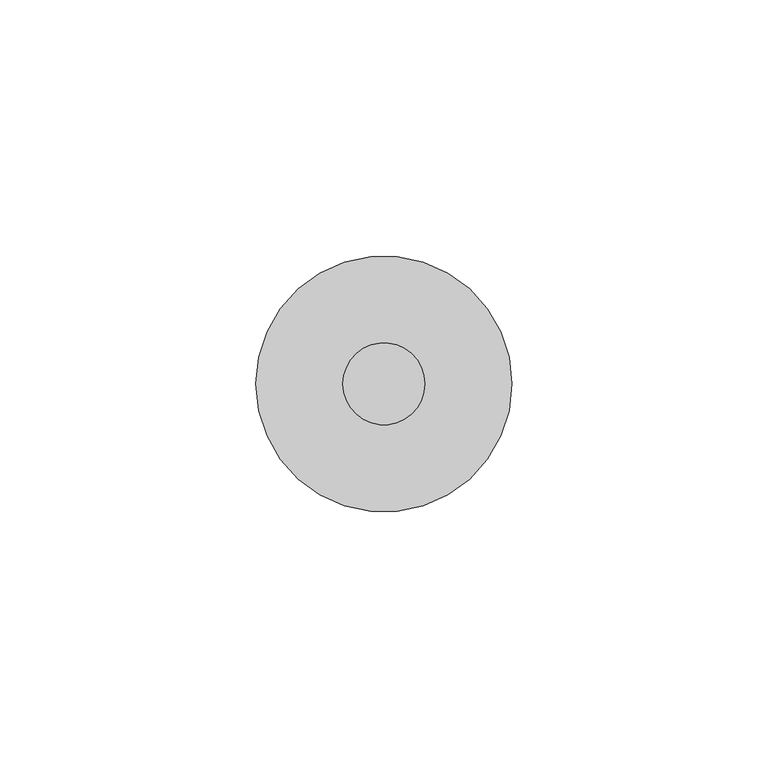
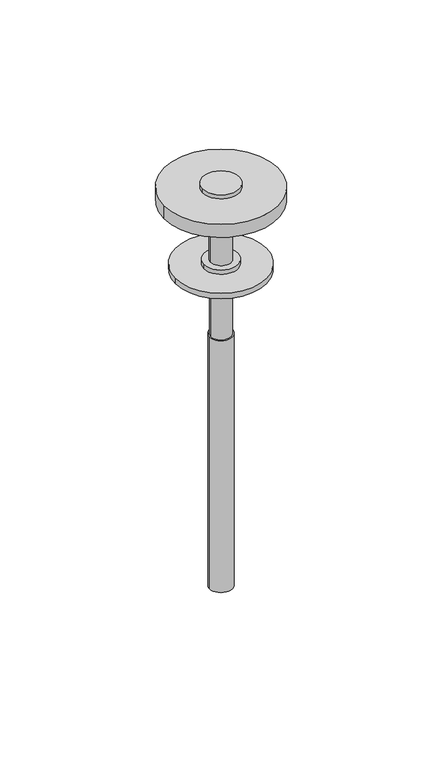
"""IFC4 building model written with IfcOpenShell, lengths in millimetres: proxy geometry, ITA-CONNETTORE 38 VOLTECO in orizzontale sigillato con AKTI-VO 201 : ITA-CONNETTORE 38 VOLTECO in orizzontale sigillato con AKTI-VO 201."""

from ifc_helpers import new_model, si_unit, point, frame, origin, origin_with_axes, origin_2d, place, context, project, spatial, circle_curve, trimmed, segment, composite_curve, outline, extrude, source, transform, mapped, element, save


def generic_models_02427750(model_context):
    return source(origin(), model_context, "Body", "SweptSolid", [
        extrude(outline(composite_curve([segment(trimmed(circle_curve(origin_2d(), 8.0), [point((-8.0, 0.0))], [point((8.0, 0.0))], False, "CARTESIAN"), True, "CONTINUOUS"), segment(trimmed(circle_curve(origin_2d(), 8.0), [point((8.0, 0.0))], [point((-8.0, 0.0))], False, "CARTESIAN"), True, "CONTINUOUS")], self_intersect=False)), frame((0.0, 0.0, 185.0), z_axis=(0.0, 0.0, 1.0), x_axis=(1.0, 0.0, 0.0)), (0.0, 0.0, 1.0), 1.8),
        extrude(outline(composite_curve([segment(trimmed(circle_curve(origin_2d(), 25.0), [point((-25.0, 0.0))], [point((25.0, 0.0))], False, "CARTESIAN"), True, "CONTINUOUS"), segment(trimmed(circle_curve(origin_2d(), 25.0), [point((25.0, 0.0))], [point((-25.0, 0.0))], False, "CARTESIAN"), True, "CONTINUOUS")], self_intersect=False)), frame((0.0, 0.0, 179.0), z_axis=(0.0, 0.0, 1.0), x_axis=(1.0, 0.0, 0.0)), (0.0, 0.0, 1.0), 6.0),
        extrude(outline(composite_curve([segment(trimmed(circle_curve(origin_2d(), 4.5), [point((-4.5, 0.0))], [point((4.5, 0.0))], False, "CARTESIAN"), True, "CONTINUOUS"), segment(trimmed(circle_curve(origin_2d(), 4.5), [point((4.5, 0.0))], [point((-4.5, 0.0))], False, "CARTESIAN"), True, "CONTINUOUS")], self_intersect=False)), frame((0.0, 0.0, 151.5), z_axis=(0.0, 0.0, 1.0), x_axis=(1.0, 0.0, 0.0)), (0.0, 0.0, 1.0), 27.5),
        extrude(outline(composite_curve([segment(trimmed(circle_curve(origin_2d(), 7.4), [point((-7.4, 0.0))], [point((7.4, 0.0))], False, "CARTESIAN"), True, "CONTINUOUS"), segment(trimmed(circle_curve(origin_2d(), 7.4), [point((7.4, 0.0))], [point((-7.4, 0.0))], False, "CARTESIAN"), True, "CONTINUOUS")], self_intersect=False)), frame((0.0, 0.0, 149.5), z_axis=(0.0, 0.0, 1.0), x_axis=(1.0, 0.0, 0.0)), (0.0, 0.0, 1.0), 2.0),
        extrude(outline(composite_curve([segment(trimmed(circle_curve(origin_2d(), 20.0), [point((-20.0, 0.0))], [point((20.0, 0.0))], False, "CARTESIAN"), True, "CONTINUOUS"), segment(trimmed(circle_curve(origin_2d(), 20.0), [point((20.0, 0.0))], [point((-20.0, 0.0))], False, "CARTESIAN"), True, "CONTINUOUS")], self_intersect=False)), frame((0.0, 0.0, 147.0), z_axis=(0.0, 0.0, 1.0), x_axis=(1.0, 0.0, 0.0)), (0.0, 0.0, 1.0), 2.5),
        extrude(outline(composite_curve([segment(trimmed(circle_curve(origin_2d(), 4.45), [point((-4.45, 0.0))], [point((4.45, 0.0))], False, "CARTESIAN"), True, "CONTINUOUS"), segment(trimmed(circle_curve(origin_2d(), 4.45), [point((4.45, 0.0))], [point((-4.45, 0.0))], False, "CARTESIAN"), True, "CONTINUOUS")], self_intersect=False)), frame((0.0, 0.0, 117.0), z_axis=(0.0, 0.0, 1.0), x_axis=(1.0, 0.0, 0.0)), (0.0, 0.0, 1.0), 30.0),
        extrude(outline(composite_curve([segment(trimmed(circle_curve(origin_2d(), 5.0), [point((-5.0, 0.0))], [point((5.0, 0.0))], False, "CARTESIAN"), True, "CONTINUOUS"), segment(trimmed(circle_curve(origin_2d(), 5.0), [point((5.0, 0.0))], [point((-5.0, 0.0))], False, "CARTESIAN"), True, "CONTINUOUS")], self_intersect=False)), origin_with_axes(), (0.0, 0.0, 1.0), 117.0),
    ])


if __name__ == "__main__":
    model = new_model("IFC4")
    model_context = context("Model", 3, world=origin())
    ifc_project = project(units=[si_unit("LENGTHUNIT", "METRE", prefix="MILLI")], contexts=[model_context])
    site = spatial("IfcSite", under=ifc_project)
    building = spatial("IfcBuilding", under=site)
    placement = place(None, origin())
    generic_models_shape = generic_models_02427750(model_context)
    element("IfcBuildingElementProxy", 1, Name="ITA-CONNETTORE 38 VOLTECO in orizzontale sigillato con AKTI-VO 201 : ITA-CONNETTORE 38 VOLTECO in orizzontale sigillato con AKTI-VO 201", ObjectType="ITA-CONNETTORE 38 VOLTECO in orizzontale sigillato con AKTI-VO 201 : ITA-CONNETTORE 38 VOLTECO in orizzontale sigillato con AKTI-VO 201", at=placement, inside=building, context=model_context, shape_type="MappedRepresentation", body=[
        mapped(generic_models_shape, transform((0.0, 0.0, 0.0), x_axis=(1.0, 0.0, 0.0), y_axis=(0.0, 1.0, 0.0), z_axis=(0.0, 0.0, 1.0))),
    ])
    save(model, "model.ifc")
